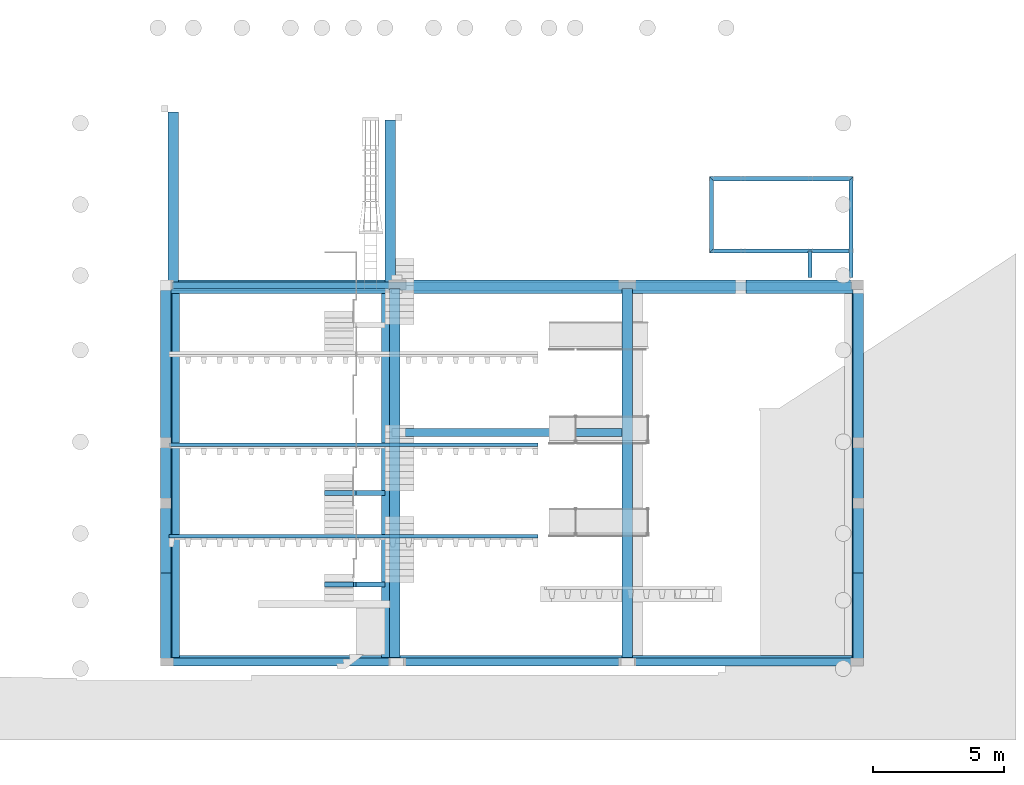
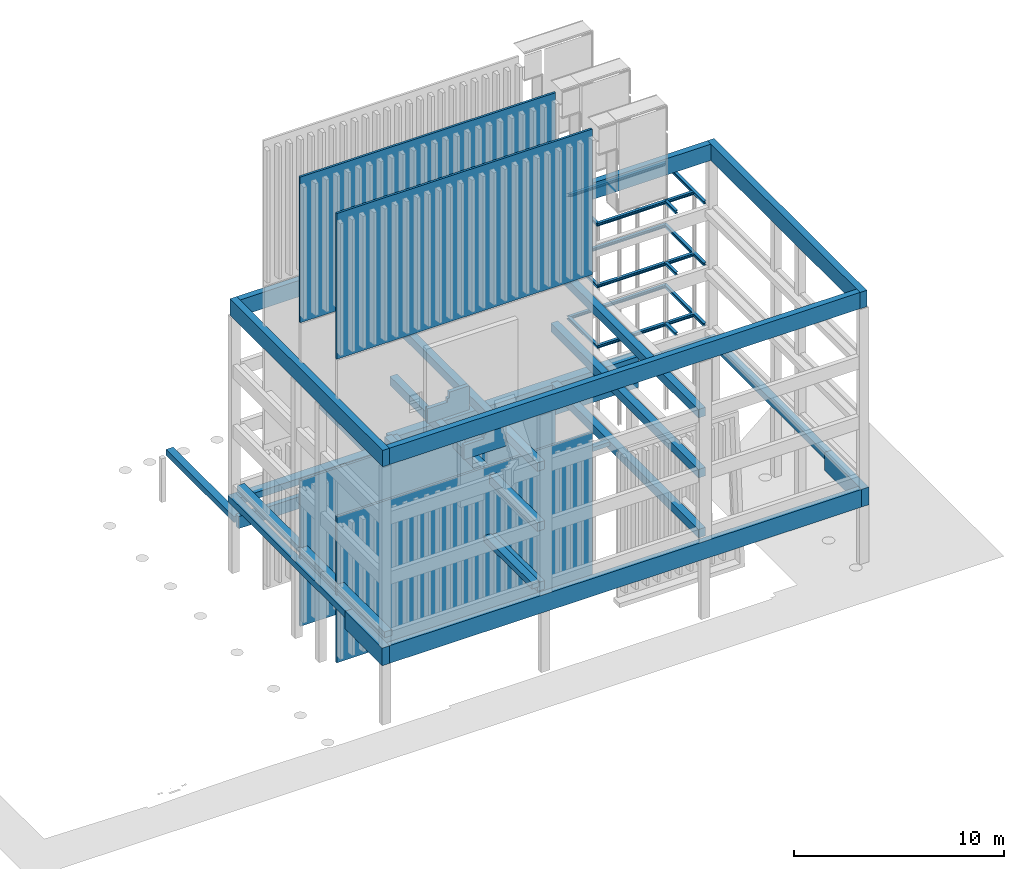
# One storey, part 3 of 15: 39 beams, 6 slabs.
"""IFC2X3 building model written with IfcOpenShell, lengths in metres."""

from ifc_helpers import new_model, entity, si_unit, converted_unit, derived_unit, money_unit, direction, frame, frame_2d, origin_with_axes, place, context, subcontext, project, spatial, polyline, rectangle, outline, extrude, clip, halfspace, faceted_brep, material, type_object, element, save


model = new_model("IFC2X3")

# Units and contexts
model_context = context("Model", 3, precision=1e-05, world=origin_with_axes(), true_north=direction((0.0, 1.0)))
body_context = subcontext(model_context, "Body", "Model", "MODEL_VIEW", scale=1.0)
ifc_project = project(units=[si_unit("LENGTHUNIT", "METRE"), si_unit("AREAUNIT", "SQUARE_METRE"), si_unit("VOLUMEUNIT", "CUBIC_METRE"), si_unit("ABSORBEDDOSEUNIT", "GRAY"), si_unit("AMOUNTOFSUBSTANCEUNIT", "MOLE"), si_unit("DOSEEQUIVALENTUNIT", "SIEVERT"), si_unit("ELECTRICCAPACITANCEUNIT", "FARAD"), si_unit("ELECTRICCHARGEUNIT", "COULOMB"), si_unit("ELECTRICCONDUCTANCEUNIT", "SIEMENS"), si_unit("ELECTRICCURRENTUNIT", "AMPERE"), si_unit("ELECTRICRESISTANCEUNIT", "OHM"), si_unit("ELECTRICVOLTAGEUNIT", "VOLT"), si_unit("ENERGYUNIT", "JOULE"), si_unit("FORCEUNIT", "NEWTON"), si_unit("FREQUENCYUNIT", "HERTZ"), si_unit("ILLUMINANCEUNIT", "LUX"), si_unit("INDUCTANCEUNIT", "HENRY"), si_unit("LUMINOUSFLUXUNIT", "LUMEN"), si_unit("LUMINOUSINTENSITYUNIT", "CANDELA"), si_unit("MAGNETICFLUXDENSITYUNIT", "TESLA"), si_unit("MAGNETICFLUXUNIT", "WEBER"), si_unit("MASSUNIT", "GRAM"), converted_unit("PLANEANGLEUNIT", "degree", entity("IfcReal", 0.0174532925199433), si_unit("PLANEANGLEUNIT", "RADIAN"), dimensions=[0, 0, 0, 0, 0, 0, 0]), si_unit("POWERUNIT", "WATT"), si_unit("PRESSUREUNIT", "PASCAL"), si_unit("RADIOACTIVITYUNIT", "BECQUEREL"), si_unit("SOLIDANGLEUNIT", "STERADIAN"), si_unit("THERMODYNAMICTEMPERATUREUNIT", "KELVIN"), si_unit("TIMEUNIT", "SECOND"), derived_unit("ACCELERATIONUNIT", [(si_unit("LENGTHUNIT", "METRE"), 1), (si_unit("TIMEUNIT", "SECOND"), -2)]), derived_unit("ANGULARVELOCITYUNIT", [(converted_unit("PLANEANGLEUNIT", "degree", entity("IfcReal", 0.0174532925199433), si_unit("PLANEANGLEUNIT", "RADIAN"), dimensions=[0, 0, 0, 0, 0, 0, 0]), 1), (si_unit("TIMEUNIT", "SECOND"), -1)]), derived_unit("CURVATUREUNIT", [(converted_unit("PLANEANGLEUNIT", "degree", entity("IfcReal", 0.0174532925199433), si_unit("PLANEANGLEUNIT", "RADIAN"), dimensions=[0, 0, 0, 0, 0, 0, 0]), 1), (si_unit("LENGTHUNIT", "METRE"), -1)]), derived_unit("DYNAMICVISCOSITYUNIT", [(si_unit("PRESSUREUNIT", "PASCAL"), 1), (si_unit("TIMEUNIT", "SECOND"), 1)]), derived_unit("HEATFLUXDENSITYUNIT", [(si_unit("POWERUNIT", "WATT"), 1), (si_unit("LENGTHUNIT", "METRE"), -2)]), derived_unit("HEATINGVALUEUNIT", [(si_unit("ENERGYUNIT", "JOULE"), 1), (si_unit("MASSUNIT", "GRAM"), -1)]), derived_unit("INTEGERCOUNTRATEUNIT", [(si_unit("TIMEUNIT", "SECOND"), -1)]), derived_unit("IONCONCENTRATIONUNIT", [(si_unit("MASSUNIT", "GRAM"), 1), (si_unit("VOLUMEUNIT", "CUBIC_METRE"), -1)]), derived_unit("ISOTHERMALMOISTURECAPACITYUNIT", [(si_unit("VOLUMEUNIT", "CUBIC_METRE"), 1), (si_unit("MASSUNIT", "GRAM"), -1)]), derived_unit("KINEMATICVISCOSITYUNIT", [(si_unit("AREAUNIT", "SQUARE_METRE"), 1), (si_unit("TIMEUNIT", "SECOND"), -1)]), derived_unit("LINEARFORCEUNIT", [(si_unit("FORCEUNIT", "NEWTON"), 1), (si_unit("LENGTHUNIT", "METRE"), -1)]), derived_unit("LINEARMOMENTUNIT", [(si_unit("FORCEUNIT", "NEWTON"), 1), (si_unit("LENGTHUNIT", "METRE"), -1)]), derived_unit("LINEARSTIFFNESSUNIT", [(si_unit("FORCEUNIT", "NEWTON"), 1), (si_unit("LENGTHUNIT", "METRE"), -1)]), derived_unit("LINEARVELOCITYUNIT", [(si_unit("LENGTHUNIT", "METRE"), 1), (si_unit("TIMEUNIT", "SECOND"), -1)]), derived_unit("LUMINOUSINTENSITYDISTRIBUTIONUNIT", [(si_unit("LUMINOUSINTENSITYUNIT", "CANDELA"), 1), (si_unit("LUMINOUSFLUXUNIT", "LUMEN"), -1)]), derived_unit("MASSDENSITYUNIT", [(si_unit("MASSUNIT", "GRAM"), 1), (si_unit("VOLUMEUNIT", "CUBIC_METRE"), -1)]), derived_unit("MASSFLOWRATEUNIT", [(si_unit("MASSUNIT", "GRAM"), 1), (si_unit("TIMEUNIT", "SECOND"), -1)]), derived_unit("MASSPERLENGTHUNIT", [(si_unit("MASSUNIT", "GRAM"), 1), (si_unit("LENGTHUNIT", "METRE"), -1)]), derived_unit("MODULUSOFELASTICITYUNIT", [(si_unit("FORCEUNIT", "NEWTON"), 1), (si_unit("AREAUNIT", "SQUARE_METRE"), -1)]), derived_unit("MODULUSOFLINEARSUBGRADEREACTIONUNIT", [(si_unit("FORCEUNIT", "NEWTON"), 1), (si_unit("LENGTHUNIT", "METRE"), -2)]), derived_unit("MODULUSOFROTATIONALSUBGRADEREACTIONUNIT", [(si_unit("FORCEUNIT", "NEWTON"), 1), (si_unit("LENGTHUNIT", "METRE"), 1)]), derived_unit("MODULUSOFSUBGRADEREACTIONUNIT", [(si_unit("FORCEUNIT", "NEWTON"), 1), (si_unit("VOLUMEUNIT", "CUBIC_METRE"), -1)]), derived_unit("MOISTUREDIFFUSIVITYUNIT", [(si_unit("VOLUMEUNIT", "CUBIC_METRE"), 1), (si_unit("TIMEUNIT", "SECOND"), -1)]), derived_unit("MOLECULARWEIGHTUNIT", [(si_unit("MASSUNIT", "GRAM"), 1), (si_unit("AMOUNTOFSUBSTANCEUNIT", "MOLE"), -1)]), derived_unit("PLANARFORCEUNIT", [(si_unit("FORCEUNIT", "NEWTON"), 1), (si_unit("LENGTHUNIT", "METRE"), -2)]), derived_unit("ROTATIONALFREQUENCYUNIT", [(si_unit("TIMEUNIT", "SECOND"), -1)]), derived_unit("ROTATIONALMASSUNIT", [(si_unit("MASSUNIT", "GRAM"), 1), (si_unit("LENGTHUNIT", "METRE"), 2)]), derived_unit("ROTATIONALSTIFFNESSUNIT", [(si_unit("FORCEUNIT", "NEWTON"), 1), (si_unit("LENGTHUNIT", "METRE"), 1), (converted_unit("PLANEANGLEUNIT", "degree", entity("IfcReal", 0.0174532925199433), si_unit("PLANEANGLEUNIT", "RADIAN"), dimensions=[0, 0, 0, 0, 0, 0, 0]), -1)]), derived_unit("SECTIONAREAINTEGRALUNIT", [(si_unit("LENGTHUNIT", "METRE"), 5)]), derived_unit("SECTIONMODULUSUNIT", [(si_unit("LENGTHUNIT", "METRE"), 3)]), derived_unit("SHEARMODULUSUNIT", [(si_unit("FORCEUNIT", "NEWTON"), 1), (si_unit("AREAUNIT", "SQUARE_METRE"), -1)]), derived_unit("SOUNDPOWERUNIT", [(si_unit("ENERGYUNIT", "JOULE"), 1), (si_unit("TIMEUNIT", "SECOND"), -1)]), derived_unit("SPECIFICHEATCAPACITYUNIT", [(si_unit("FORCEUNIT", "NEWTON"), 1), (si_unit("MASSUNIT", "GRAM"), -1), (si_unit("THERMODYNAMICTEMPERATUREUNIT", "KELVIN"), -1)]), derived_unit("TEMPERATUREGRADIENTUNIT", [(si_unit("THERMODYNAMICTEMPERATUREUNIT", "KELVIN"), 1), (si_unit("LENGTHUNIT", "METRE"), -1)]), derived_unit("THERMALADMITTANCEUNIT", [(si_unit("POWERUNIT", "WATT"), 1), (si_unit("AREAUNIT", "SQUARE_METRE"), -1), (si_unit("THERMODYNAMICTEMPERATUREUNIT", "KELVIN"), -1)]), derived_unit("THERMALCONDUCTANCEUNIT", [(si_unit("POWERUNIT", "WATT"), 1), (si_unit("LENGTHUNIT", "METRE"), -1), (si_unit("THERMODYNAMICTEMPERATUREUNIT", "KELVIN"), -1)]), derived_unit("THERMALEXPANSIONCOEFFICIENTUNIT", [(si_unit("THERMODYNAMICTEMPERATUREUNIT", "KELVIN"), -1)]), derived_unit("THERMALRESISTANCEUNIT", [(si_unit("AREAUNIT", "SQUARE_METRE"), 1), (si_unit("POWERUNIT", "WATT"), -1)]), derived_unit("THERMALTRANSMITTANCEUNIT", [(si_unit("POWERUNIT", "WATT"), 1), (si_unit("AREAUNIT", "SQUARE_METRE"), -1), (si_unit("THERMODYNAMICTEMPERATUREUNIT", "KELVIN"), -1)]), derived_unit("TORQUEUNIT", [(si_unit("FORCEUNIT", "NEWTON"), 1), (si_unit("LENGTHUNIT", "METRE"), 1)]), derived_unit("VAPORPERMEABILITYUNIT", [(si_unit("MASSUNIT", "GRAM"), 1), (si_unit("TIMEUNIT", "SECOND"), -1)]), derived_unit("VOLUMETRICFLOWRATEUNIT", [(si_unit("VOLUMEUNIT", "CUBIC_METRE"), 1), (si_unit("TIMEUNIT", "SECOND"), -1)]), derived_unit("WARPINGCONSTANTUNIT", [(si_unit("LENGTHUNIT", "METRE"), 6)]), derived_unit("WARPINGMOMENTUNIT", [(si_unit("FORCEUNIT", "NEWTON"), 1), (si_unit("LENGTHUNIT", "METRE"), 2)]), money_unit("GBP")], contexts=[model_context])

# Site, building, storey
site_placement = place(None, origin_with_axes())
site = spatial("IfcSite", under=ifc_project, at=site_placement, Name="Site", CompositionType="ELEMENT")
building_placement = place(site_placement, origin_with_axes())
building = spatial("IfcBuilding", under=site, at=building_placement, Name="Building01", CompositionType="ELEMENT")
storey_placement = place(building_placement, origin_with_axes())
storey = spatial("IfcBuildingStorey", under=building, at=storey_placement, Name="GF", CompositionType="ELEMENT", Elevation=0.0)

# Beams
ifc_material_1 = material(Name="A_BSUK_Beams_Steel")
beam_type_1 = type_object("IfcBeamType", Name="A-Beams-Steel", PredefinedType="BEAM")
beam_1_placement = place(storey_placement, frame((26.405835, 15.994581, 4.894267), z_axis=(-1.0, 0.0, 0.0), x_axis=(0.0, -1.0, 0.0)))
element("IfcBeam", 1, at=beam_1_placement, inside=storey, type_object=beam_type_1, material=ifc_material_1, Name="A-Beams-Steel", ObjectType="A-Beams-Steel", context=body_context, shape_type="Clipping", body=[
    clip(extrude(outline(polyline([(0.1574, 0.0), (0.1574, 0.0157), (0.0842, 0.0157), (0.0842, 0.1545), (0.1574, 0.1545), (0.1574, 0.1702), (0.0, 0.1702), (0.0, 0.1545), (0.0732, 0.1545), (0.0732, 0.0157), (0.0, 0.0157), (0.0, 0.0), (0.1574, 0.0)])), origin_with_axes(), (0.0, 0.0, 1.0), 5.394401), halfspace(frame((-2.618501, 0.0, 2.618501), z_axis=(0.70710678, 0.0, -0.70710678), x_axis=(0.0, 1.0, 0.0)), True)),
])
for number, where, z_axis, x_axis, name in (
    (2, (26.490035, 18.742181, 4.894267), (-1.0, 0.0, 0.0), (0.0, -1.0, 0.0), "A-Beams-Steel"),
    (3, (26.490035, 18.742181, 12.000813), (-1.0, 0.0, 0.0), (0.0, -1.0, 0.0), "A-Beams-Steel"),
):
    element("IfcBeam", number, at=place(storey_placement, frame(where, z_axis=z_axis, x_axis=x_axis)), inside=storey, type_object=beam_type_1, material=ifc_material_1, Name=name, ObjectType="A-Beams-Steel", context=body_context, shape_type="Clipping", body=[
        clip(clip(extrude(outline(polyline([(0.1574, 0.0), (0.1574, 0.0157), (0.0842, 0.0157), (0.0842, 0.1545), (0.1574, 0.1545), (0.1574, 0.1702), (0.0, 0.1702), (0.0, 0.1545), (0.0732, 0.1545), (0.0732, 0.0157), (0.0, 0.0157), (0.0, 0.0), (0.1574, 0.0)])), origin_with_axes(), (0.0, 0.0, 1.0), 5.478601), halfspace(frame((0.0, 0.0, 0.0), z_axis=(-0.70710678, 0.0, 0.70710678), x_axis=(0.0, -1.0, 0.0)), True)), halfspace(frame((2.739301, 0.0, 2.739301), z_axis=(-0.70710678, 0.0, -0.70710678), x_axis=(0.0, -1.0, 0.0)), True)),
    ])
beam_2_placement = place(storey_placement, frame((21.011434, 18.742181, 4.894267), z_axis=(0.0, -1.0, 0.0), x_axis=(1.0, 0.0, 0.0)))
element("IfcBeam", 4, at=beam_2_placement, inside=storey, type_object=beam_type_1, material=ifc_material_1, Name="A-Beams-Steel", ObjectType="A-Beams-Steel", context=body_context, shape_type="Clipping", body=[
    clip(clip(extrude(outline(polyline([(0.1574, 0.0), (0.1574, 0.0157), (0.0842, 0.0157), (0.0842, 0.1545), (0.1574, 0.1545), (0.1574, 0.1702), (0.0, 0.1702), (0.0, 0.1545), (0.0732, 0.1545), (0.0732, 0.0157), (0.0, 0.0157), (0.0, 0.0), (0.1574, 0.0)])), origin_with_axes(), (0.0, 0.0, 1.0), 2.905), halfspace(frame((0.0, 0.0, 0.0), z_axis=(-0.70710678, 0.0, 0.70710678), x_axis=(0.0, -1.0, 0.0)), True)), halfspace(frame((1.4525, 0.0, 1.4525), z_axis=(-0.70710678, 0.0, -0.70710678), x_axis=(-0.70710678, 0.0, 0.70710678)), True)),
])
beam_3_placement = place(storey_placement, frame((26.332635, 18.742181, 12.000813), z_axis=(0.0, -1.0, 0.0), x_axis=(1.0, 0.0, 0.0)))
element("IfcBeam", 5, at=beam_3_placement, inside=storey, type_object=beam_type_1, material=ifc_material_1, Name="A-Beams-Steel", ObjectType="A-Beams-Steel", context=body_context, shape_type="Clipping", body=[
    clip(extrude(outline(polyline([(0.1574, 0.0), (0.1574, 0.0157), (0.0842, 0.0157), (0.0842, 0.1545), (0.1574, 0.1545), (0.1574, 0.1702), (0.0, 0.1702), (0.0, 0.1545), (0.0732, 0.1545), (0.0732, 0.0157), (0.0, 0.0157), (0.0, 0.0), (0.1574, 0.0)])), origin_with_axes(), (0.0, 0.0, 1.0), 3.842181), halfspace(frame((0.0787, 0.0, 0.0787), z_axis=(0.70710678, 0.0, 0.70710678), x_axis=(0.0, 1.0, 0.0)), True)),
])
for number, where, z_axis, x_axis, name in (
    (6, (24.769835, 15.910381, 8.417242), (0.0, -1.0, 0.0), (1.0, 0.0, 0.0), "A-Beams-Steel"),
    (7, (24.769835, 15.910381, 12.000813), (0.0, -1.0, 0.0), (1.0, 0.0, 0.0), "A-Beams-Steel"),
    (8, (24.769835, 15.910381, 4.894267), (0.0, -1.0, 0.0), (1.0, 0.0, 0.0), "A-Beams-Steel"),
):
    element("IfcBeam", number, at=place(storey_placement, frame(where, z_axis=z_axis, x_axis=x_axis)), inside=storey, type_object=beam_type_1, material=ifc_material_1, Name=name, ObjectType="A-Beams-Steel", context=body_context, shape_type="SweptSolid", body=[
        extrude(outline(polyline([(0.1574, 0.0), (0.1574, 0.0157), (0.0842, 0.0157), (0.0842, 0.1545), (0.1574, 0.1545), (0.1574, 0.1702), (0.0, 0.1702), (0.0, 0.1545), (0.0732, 0.1545), (0.0732, 0.0157), (0.0, 0.0157), (0.0, 0.0), (0.1574, 0.0)])), origin_with_axes(), (0.0, 0.0, 1.0), 1.010381),
    ])
beam_4_placement = place(storey_placement, frame((21.011434, 18.742181, 8.417242), z_axis=(0.0, -1.0, 0.0), x_axis=(1.0, 0.0, 0.0)))
element("IfcBeam", 9, at=beam_4_placement, inside=storey, type_object=beam_type_1, material=ifc_material_1, Name="A-Beams-Steel", ObjectType="A-Beams-Steel", context=body_context, shape_type="Clipping", body=[
    clip(clip(extrude(outline(polyline([(0.1574, 0.0), (0.1574, 0.0157), (0.0842, 0.0157), (0.0842, 0.1545), (0.1574, 0.1545), (0.1574, 0.1702), (0.0, 0.1702), (0.0, 0.1545), (0.0732, 0.1545), (0.0732, 0.0157), (0.0, 0.0157), (0.0, 0.0), (0.1574, 0.0)])), origin_with_axes(), (0.0, 0.0, 1.0), 2.905), halfspace(frame((1.4525, 0.0, 1.4525), z_axis=(-0.70710678, 0.0, -0.70710678), x_axis=(0.0, -1.0, 0.0)), True)), halfspace(frame((0.0, 0.0, 0.0), z_axis=(-0.70710678, 0.0, 0.70710678), x_axis=(0.0, -1.0, 0.0)), True)),
])
beam_5_placement = place(storey_placement, frame((21.011434, 18.742181, 12.000813), z_axis=(0.0, -1.0, 0.0), x_axis=(1.0, 0.0, 0.0)))
element("IfcBeam", 10, at=beam_5_placement, inside=storey, type_object=beam_type_1, material=ifc_material_1, Name="A-Beams-Steel", ObjectType="A-Beams-Steel", context=body_context, shape_type="Clipping", body=[
    clip(clip(extrude(outline(polyline([(0.1574, 0.0), (0.1574, 0.0157), (0.0842, 0.0157), (0.0842, 0.1545), (0.1574, 0.1545), (0.1574, 0.1702), (0.0, 0.1702), (0.0, 0.1545), (0.0732, 0.1545), (0.0732, 0.0157), (0.0, 0.0157), (0.0, 0.0), (0.1574, 0.0)])), origin_with_axes(), (0.0, 0.0, 1.0), 2.905), halfspace(frame((0.0, 0.0, 0.0), z_axis=(-0.70710678, 0.0, 0.70710678), x_axis=(0.0, -1.0, 0.0)), True)), halfspace(frame((1.4525, 0.0, 1.4525), z_axis=(-0.70710678, 0.0, -0.70710678), x_axis=(-0.70710678, 0.0, 0.70710678)), True)),
])
beam_6_placement = place(storey_placement, frame((26.332635, 18.742181, 8.417242), z_axis=(0.0, -1.0, 0.0), x_axis=(1.0, 0.0, 0.0)))
element("IfcBeam", 11, at=beam_6_placement, inside=storey, type_object=beam_type_1, material=ifc_material_1, Name="A-Beams-Steel", ObjectType="A-Beams-Steel", context=body_context, shape_type="Clipping", body=[
    clip(extrude(outline(polyline([(0.1574, 0.0), (0.1574, 0.0157), (0.0842, 0.0157), (0.0842, 0.1545), (0.1574, 0.1545), (0.1574, 0.1702), (0.0, 0.1702), (0.0, 0.1545), (0.0732, 0.1545), (0.0732, 0.0157), (0.0, 0.0157), (0.0, 0.0), (0.1574, 0.0)])), origin_with_axes(), (0.0, 0.0, 1.0), 3.842181), halfspace(frame((0.0787, 0.0, 0.0787), z_axis=(0.70710678, 0.0, 0.70710678), x_axis=(0.70710678, 0.0, -0.70710678)), True)),
])
beam_7_placement = place(storey_placement, frame((26.332635, 18.742181, 4.894267), z_axis=(0.0, -1.0, 0.0), x_axis=(1.0, 0.0, 0.0)))
element("IfcBeam", 12, at=beam_7_placement, inside=storey, type_object=beam_type_1, material=ifc_material_1, Name="A-Beams-Steel", ObjectType="A-Beams-Steel", context=body_context, shape_type="Clipping", body=[
    clip(extrude(outline(polyline([(0.1574, 0.0), (0.1574, 0.0157), (0.0842, 0.0157), (0.0842, 0.1545), (0.1574, 0.1545), (0.1574, 0.1702), (0.0, 0.1702), (0.0, 0.1545), (0.0732, 0.1545), (0.0732, 0.0157), (0.0, 0.0157), (0.0, 0.0), (0.1574, 0.0)])), origin_with_axes(), (0.0, 0.0, 1.0), 3.842181), halfspace(frame((0.0787, 0.0, 0.0787), z_axis=(0.70710678, 0.0, 0.70710678), x_axis=(0.0, 1.0, 0.0)), True)),
])
beam_8_placement = place(storey_placement, frame((26.490035, 18.742181, 8.417242), z_axis=(-1.0, 0.0, 0.0), x_axis=(0.0, -1.0, 0.0)))
element("IfcBeam", 13, at=beam_8_placement, inside=storey, type_object=beam_type_1, material=ifc_material_1, Name="A-Beams-Steel", ObjectType="A-Beams-Steel", context=body_context, shape_type="Clipping", body=[
    clip(clip(extrude(outline(polyline([(0.1574, 0.0), (0.1574, 0.0157), (0.0842, 0.0157), (0.0842, 0.1545), (0.1574, 0.1545), (0.1574, 0.1702), (0.0, 0.1702), (0.0, 0.1545), (0.0732, 0.1545), (0.0732, 0.0157), (0.0, 0.0157), (0.0, 0.0), (0.1574, 0.0)])), origin_with_axes(), (0.0, 0.0, 1.0), 5.478601), halfspace(frame((2.739301, 0.0, 2.739301), z_axis=(-0.70710678, 0.0, -0.70710678), x_axis=(0.0, -1.0, 0.0)), True)), halfspace(frame((0.0, 0.0, 0.0), z_axis=(-0.70710678, 0.0, 0.70710678), x_axis=(0.0, -1.0, 0.0)), True)),
])
for number, where, z_axis, x_axis, name in (
    (14, (26.405835, 15.994581, 8.417242), (-1.0, 0.0, 0.0), (0.0, -1.0, 0.0), "A-Beams-Steel"),
    (15, (26.405835, 15.994581, 12.000813), (-1.0, 0.0, 0.0), (0.0, -1.0, 0.0), "A-Beams-Steel"),
):
    element("IfcBeam", number, at=place(storey_placement, frame(where, z_axis=z_axis, x_axis=x_axis)), inside=storey, type_object=beam_type_1, material=ifc_material_1, Name=name, ObjectType="A-Beams-Steel", context=body_context, shape_type="Clipping", body=[
        clip(extrude(outline(polyline([(0.1574, 0.0), (0.1574, 0.0157), (0.0842, 0.0157), (0.0842, 0.1545), (0.1574, 0.1545), (0.1574, 0.1702), (0.0, 0.1702), (0.0, 0.1545), (0.0732, 0.1545), (0.0732, 0.0157), (0.0, 0.0157), (0.0, 0.0), (0.1574, 0.0)])), origin_with_axes(), (0.0, 0.0, 1.0), 5.394401), halfspace(frame((-2.618501, 0.0, 2.618501), z_axis=(0.70710678, 0.0, -0.70710678), x_axis=(0.0, 1.0, 0.0)), True)),
    ])
ifc_material_2 = material(Name="S_BSUK_Beams_PrecastConcrete")
beam_type_2 = type_object("IfcBeamType", Name="S-Beams-PrecastConcrete", PredefinedType="BEAM")
for number, where, z_axis, x_axis, name in (
    (16, (17.685, 14.48, 4.4), (0.0, -1.0, 0.0), (1.0, 0.0, 0.0), "S-Beams-PrecastConcrete"),
    (17, (8.825, 14.48, 4.4), (0.0, -1.0, 0.0), (1.0, 0.0, 0.0), "S-Beams-PrecastConcrete"),
    (18, (17.685, 14.48, 7.89), (0.0, -1.0, 0.0), (1.0, 0.0, 0.0), "S-Beams-PrecastConcrete"),
    (19, (8.825, 14.48, 7.89), (0.0, -1.0, 0.0), (1.0, 0.0, 0.0), "S-Beams-PrecastConcrete"),
    (20, (17.685, 14.48, 11.38), (0.0, -1.0, 0.0), (1.0, 0.0, 0.0), "S-Beams-PrecastConcrete"),
    (21, (8.825, 14.48, 11.38), (0.0, -1.0, 0.0), (1.0, 0.0, 0.0), "S-Beams-PrecastConcrete"),
):
    element("IfcBeam", number, at=place(storey_placement, frame(where, z_axis=z_axis, x_axis=x_axis)), inside=storey, type_object=beam_type_2, material=ifc_material_2, Name=name, ObjectType="S-Beams-PrecastConcrete", context=body_context, shape_type="SweptSolid", body=[
        extrude(rectangle(XDim=0.5, YDim=0.4, at=frame_2d((0.2, 0.25), x_axis=(0.0, 1.0))), origin_with_axes(), (0.0, 0.0, 1.0), 14.06),
    ])
beam_9_placement = place(storey_placement, frame((0.1, 14.8, 3.97), z_axis=(0.0, -1.0, 0.0), x_axis=(1.0, 0.0, 0.0)))
element("IfcBeam", 22, at=beam_9_placement, inside=storey, type_object=beam_type_2, material=ifc_material_2, Name="S-Beams-PrecastConcrete", ObjectType="S-Beams-PrecastConcrete", context=body_context, shape_type="SweptSolid", body=[
    extrude(rectangle(XDim=0.38, YDim=0.4, at=frame_2d((0.2, 0.19), x_axis=(0.0, 1.0))), origin_with_axes(), (0.0, 0.0, 1.0), 11.153538),
])
beam_10_placement = place(storey_placement, frame((22.41, 14.799999, 3.1), z_axis=(-1.0, 0.0, 0.0), x_axis=(0.0, -1.0, 0.0)))
element("IfcBeam", 23, at=beam_10_placement, inside=storey, type_object=beam_type_2, material=ifc_material_2, Name="S-Beams-PrecastConcrete", ObjectType="S-Beams-PrecastConcrete", context=body_context, shape_type="SweptSolid", body=[
    extrude(rectangle(XDim=1.8, YDim=0.5, at=frame_2d((0.25, 0.9), x_axis=(0.0, 1.0))), origin_with_axes(), (0.0, 0.0, 1.0), 13.62),
])
beam_11_placement = place(storey_placement, frame((0.1, 3.646462, 3.32), z_axis=(0.0, -1.0, 0.0), x_axis=(1.0, 0.0, 0.0)))
element("IfcBeam", 24, at=beam_11_placement, inside=storey, type_object=beam_type_2, material=ifc_material_2, Name="S-Beams-PrecastConcrete", ObjectType="S-Beams-PrecastConcrete", context=body_context, shape_type="SweptSolid", body=[
    extrude(rectangle(XDim=1.03, YDim=0.4, at=frame_2d((0.2, 0.515), x_axis=(0.0, 1.0))), origin_with_axes(), (0.0, 0.0, 1.0), 3.546462),
])
beam_12_placement = place(storey_placement, frame((0.5, 0.1, 3.32), z_axis=(1.0, 0.0, 0.0), x_axis=(0.0, 1.0, 0.0)))
element("IfcBeam", 25, at=beam_12_placement, inside=storey, type_object=beam_type_2, material=ifc_material_2, Name="S-Beams-PrecastConcrete", ObjectType="S-Beams-PrecastConcrete", context=body_context, shape_type="SweptSolid", body=[
    extrude(rectangle(XDim=1.03, YDim=0.3, at=frame_2d((0.15, 0.515), x_axis=(0.0, 1.0))), origin_with_axes(), (0.0, 0.0, 1.0), 25.98),
])
beam_13_placement = place(storey_placement, frame((26.48, 3.646462, 3.32), z_axis=(0.0, -1.0, 0.0), x_axis=(1.0, 0.0, 0.0)))
element("IfcBeam", 26, at=beam_13_placement, inside=storey, type_object=beam_type_2, material=ifc_material_2, Name="S-Beams-PrecastConcrete", ObjectType="S-Beams-PrecastConcrete", context=body_context, shape_type="SweptSolid", body=[
    extrude(rectangle(XDim=1.03, YDim=0.4, at=frame_2d((0.2, 0.515), x_axis=(0.0, 1.0))), origin_with_axes(), (0.0, 0.0, 1.0), 3.546462),
])
beam_14_placement = place(storey_placement, frame((26.48, 14.8, 3.97), z_axis=(0.0, -1.0, 0.0), x_axis=(1.0, 0.0, 0.0)))
element("IfcBeam", 27, at=beam_14_placement, inside=storey, type_object=beam_type_2, material=ifc_material_2, Name="S-Beams-PrecastConcrete", ObjectType="S-Beams-PrecastConcrete", context=body_context, shape_type="SweptSolid", body=[
    extrude(rectangle(XDim=0.38, YDim=0.4, at=frame_2d((0.2, 0.19), x_axis=(0.0, 1.0))), origin_with_axes(), (0.0, 0.0, 1.0), 11.153538),
])
beam_15_placement = place(storey_placement, frame((26.48, 14.799999, 3.97), z_axis=(-1.0, 0.0, 0.0), x_axis=(0.0, -1.0, 0.0)))
element("IfcBeam", 28, at=beam_15_placement, inside=storey, type_object=beam_type_2, material=ifc_material_2, Name="S-Beams-PrecastConcrete", ObjectType="S-Beams-PrecastConcrete", context=body_context, shape_type="SweptSolid", body=[
    extrude(rectangle(XDim=0.38, YDim=0.5, at=frame_2d((0.25, 0.19), x_axis=(0.0, 1.0))), origin_with_axes(), (0.0, 0.0, 1.0), 4.07),
])
beam_16_placement = place(storey_placement, frame((8.79, 14.799999, 3.97), z_axis=(-1.0, 0.0, 0.0), x_axis=(0.0, -1.0, 0.0)))
element("IfcBeam", 29, at=beam_16_placement, inside=storey, type_object=beam_type_2, material=ifc_material_2, Name="S-Beams-PrecastConcrete", ObjectType="S-Beams-PrecastConcrete", context=body_context, shape_type="SweptSolid", body=[
    extrude(rectangle(XDim=0.38, YDim=0.5, at=frame_2d((0.25, 0.19), x_axis=(0.0, 1.0))), origin_with_axes(), (0.0, 0.0, 1.0), 8.29),
])
beam_17_placement = place(storey_placement, frame((9.325, 8.847854, 4.65), z_axis=(1.0, 0.0, 0.0), x_axis=(0.0, 1.0, 0.0)))
element("IfcBeam", 30, at=beam_17_placement, inside=storey, type_object=beam_type_2, material=ifc_material_2, Name="S-Beams-PrecastConcrete", ObjectType="S-Beams-PrecastConcrete", context=body_context, shape_type="SweptSolid", body=[
    extrude(rectangle(XDim=0.25, YDim=0.3, at=frame_2d((0.15, 0.125), x_axis=(0.0, 1.0))), origin_with_axes(), (0.0, 0.0, 1.0), 8.36),
])
beam_18_placement = place(storey_placement, frame((8.903038, 14.73, 2.435), z_axis=(-1.0, 0.0, 0.0), x_axis=(0.0, -1.0, 0.0)))
element("IfcBeam", 31, at=beam_18_placement, inside=storey, type_object=beam_type_2, material=ifc_material_2, Name="S-Beams-PrecastConcrete", ObjectType="S-Beams-PrecastConcrete", context=body_context, shape_type="SweptSolid", body=[
    extrude(rectangle(XDim=0.7, YDim=0.25, at=frame_2d((0.125, 0.35), x_axis=(0.0, 1.0))), origin_with_axes(), (0.0, 0.0, 1.0), 8.403038),
])
for number, where, z_axis, x_axis, name in (
    (32, (0.42, 14.48, 4.64), (0.0, -1.0, 0.0), (1.0, 0.0, 0.0), "S-Beams-PrecastConcrete"),
    (33, (8.525, 14.48, 4.64), (0.0, -1.0, 0.0), (1.0, 0.0, 0.0), "S-Beams-PrecastConcrete"),
):
    element("IfcBeam", number, at=place(storey_placement, frame(where, z_axis=z_axis, x_axis=x_axis)), inside=storey, type_object=beam_type_2, material=ifc_material_2, Name=name, ObjectType="S-Beams-PrecastConcrete", context=body_context, shape_type="SweptSolid", body=[
        extrude(rectangle(XDim=0.34, YDim=0.4, at=frame_2d((0.2, 0.17), x_axis=(0.0, 1.0))), origin_with_axes(), (0.0, 0.0, 1.0), 14.06),
    ])
beam_19_placement = place(storey_placement, frame((0.390679, 21.207883, 2.675), z_axis=(0.0, -1.0, 0.0), x_axis=(1.0, 0.0, 0.0)))
element("IfcBeam", 34, at=beam_19_placement, inside=storey, type_object=beam_type_2, material=ifc_material_2, Name="S-Beams-PrecastConcrete", ObjectType="S-Beams-PrecastConcrete", context=body_context, shape_type="SweptSolid", body=[
    extrude(rectangle(XDim=0.34, YDim=0.4, at=frame_2d((0.2, 0.17), x_axis=(0.0, 1.0))), origin_with_axes(), (0.0, 0.0, 1.0), 6.477883),
])
beam_20_placement = place(storey_placement, frame((8.653038, 20.901785, 2.675), z_axis=(0.0, -1.0, 0.0), x_axis=(1.0, 0.0, 0.0)))
element("IfcBeam", 35, at=beam_20_placement, inside=storey, type_object=beam_type_2, material=ifc_material_2, Name="S-Beams-PrecastConcrete", ObjectType="S-Beams-PrecastConcrete", context=body_context, shape_type="SweptSolid", body=[
    extrude(rectangle(XDim=0.34, YDim=0.4, at=frame_2d((0.2, 0.17), x_axis=(0.0, 1.0))), origin_with_axes(), (0.0, 0.0, 1.0), 6.171785),
])
beam_21_placement = place(storey_placement, frame((26.44, 14.73, 14.83), z_axis=(-1.0, 0.0, 0.0), x_axis=(0.0, -1.0, 0.0)))
element("IfcBeam", 36, at=beam_21_placement, inside=storey, type_object=beam_type_2, material=ifc_material_2, Name="S-Beams-PrecastConcrete", ObjectType="S-Beams-PrecastConcrete", context=body_context, shape_type="SweptSolid", body=[
    extrude(rectangle(XDim=0.95, YDim=0.33, at=frame_2d((0.165, 0.475), x_axis=(0.0, 1.0))), origin_with_axes(), (0.0, 0.0, 1.0), 25.9),
])
beam_22_placement = place(storey_placement, frame((26.44, 14.73, 14.83), z_axis=(0.0, -1.0, 0.0), x_axis=(1.0, 0.0, 0.0)))
element("IfcBeam", 37, at=beam_22_placement, inside=storey, type_object=beam_type_2, material=ifc_material_2, Name="S-Beams-PrecastConcrete", ObjectType="S-Beams-PrecastConcrete", context=body_context, shape_type="SweptSolid", body=[
    extrude(rectangle(XDim=0.95, YDim=0.37, at=frame_2d((0.185, 0.475), x_axis=(0.0, 1.0))), origin_with_axes(), (0.0, 0.0, 1.0), 14.56),
])
beam_23_placement = place(storey_placement, frame((26.44, 0.5, 14.83), z_axis=(-1.0, 0.0, 0.0), x_axis=(0.0, -1.0, 0.0)))
element("IfcBeam", 38, at=beam_23_placement, inside=storey, type_object=beam_type_2, material=ifc_material_2, Name="S-Beams-PrecastConcrete", ObjectType="S-Beams-PrecastConcrete", context=body_context, shape_type="SweptSolid", body=[
    extrude(rectangle(XDim=0.95, YDim=0.33, at=frame_2d((0.165, 0.475), x_axis=(0.0, 1.0))), origin_with_axes(), (0.0, 0.0, 1.0), 25.9),
])
beam_24_placement = place(storey_placement, frame((0.17, 14.73, 14.83), z_axis=(0.0, -1.0, 0.0), x_axis=(1.0, 0.0, 0.0)))
element("IfcBeam", 39, at=beam_24_placement, inside=storey, type_object=beam_type_2, material=ifc_material_2, Name="S-Beams-PrecastConcrete", ObjectType="S-Beams-PrecastConcrete", context=body_context, shape_type="SweptSolid", body=[
    extrude(rectangle(XDim=0.95, YDim=0.37, at=frame_2d((0.185, 0.475), x_axis=(0.0, 1.0))), origin_with_axes(), (0.0, 0.0, 1.0), 14.56),
])

# Slabs
ifc_material_3 = material(Name="A_BSUK_Slabs")
slab_type = type_object("IfcSlabType", Name="A-FloorsSlabs A_BSUK_Slabs", PredefinedType="FLOOR")
placement = place(storey_placement, origin_with_axes())
element("IfcSlab", 40, at=placement, inside=storey, type_object=slab_type, material=ifc_material_3, Name="A-FloorsSlabs A_BSUK_Slabs", ObjectType="CompoundSlabLeaf", context=body_context, shape_type="Brep", body=[
    faceted_brep([(14.48, 8.47, 0.42), (14.48, 8.59, 0.42), (14.48, 8.59, 8.925), (14.48, 8.47, 8.925), (0.42, 8.47, 0.42), (0.42, 8.59, 0.42), (0.42, 8.47, 8.925), (0.42, 8.59, 8.925)], [[[0, 1, 2, 3]], [[4, 5, 1, 0]], [[6, 7, 5, 4]], [[3, 2, 7, 6]], [[1, 5, 7, 2]], [[3, 6, 4, 0]]]),
])
element("IfcSlab", 41, at=placement, inside=storey, type_object=slab_type, material=ifc_material_3, Name="A-FloorsSlabs A_BSUK_Slabs", ObjectType="CompoundSlabLeaf", context=body_context, shape_type="Brep", body=[
    faceted_brep([(14.48, 8.47, 18.085), (14.48, 8.59, 18.085), (14.48, 8.59, 26.56), (14.48, 8.47, 26.56), (0.42, 8.47, 18.085), (0.42, 8.59, 18.085), (0.42, 8.47, 26.56), (0.42, 8.59, 26.56)], [[[0, 1, 2, 3]], [[4, 5, 1, 0]], [[6, 7, 5, 4]], [[3, 2, 7, 6]], [[1, 5, 7, 2]], [[3, 6, 4, 0]]]),
])
element("IfcSlab", 42, at=placement, inside=storey, type_object=slab_type, material=ifc_material_3, Name="A-FloorsSlabs A_BSUK_Slabs", ObjectType="CompoundSlabLeaf", context=body_context, shape_type="Brep", body=[
    faceted_brep([(14.48, 4.98, 0.42), (14.48, 5.1, 0.42), (14.48, 5.1, 8.925), (14.48, 4.98, 8.925), (0.42, 4.98, 0.42), (0.42, 5.1, 0.42), (0.42, 4.98, 8.925), (0.42, 5.1, 8.925)], [[[0, 1, 2, 3]], [[4, 5, 1, 0]], [[6, 7, 5, 4]], [[3, 2, 7, 6]], [[1, 5, 7, 2]], [[3, 6, 4, 0]]]),
])
element("IfcSlab", 43, at=placement, inside=storey, type_object=slab_type, material=ifc_material_3, Name="A-FloorsSlabs A_BSUK_Slabs", ObjectType="CompoundSlabLeaf", context=body_context, shape_type="Brep", body=[
    faceted_brep([(14.48, 4.98, 18.085), (14.48, 5.1, 18.085), (14.48, 5.1, 26.56), (14.48, 4.98, 26.56), (0.42, 4.98, 18.085), (0.42, 5.1, 18.085), (0.42, 4.98, 26.56), (0.42, 5.1, 26.56)], [[[0, 1, 2, 3]], [[4, 5, 1, 0]], [[6, 7, 5, 4]], [[3, 2, 7, 6]], [[1, 5, 7, 2]], [[3, 6, 4, 0]]]),
])
slab_5_placement = place(storey_placement, frame((8.65, 3.1, 11.3), z_axis=(0.0, 1.0, 0.0), x_axis=(0.0, 0.0, 1.0)))
element("IfcSlab", 44, at=slab_5_placement, inside=storey, type_object=slab_type, material=ifc_material_3, Name="A-FloorsSlabs A_BSUK_Slabs", ObjectType="A-FloorsSlabs A_BSUK_Slabs", context=body_context, shape_type="Brep", body=[
    faceted_brep([(0.0, 0.0, 0.0), (0.0, 0.0, 0.2), (1.395807, 0.0, 0.2), (1.395807, 0.0, 0.0), (0.0, -2.3, 0.0), (0.0, -2.3, 0.2), (0.841481, -2.3, 0.0), (0.841481, -2.3, 0.2), (0.841481, -1.2, 0.0), (0.841481, -1.2, 0.2), (1.059584, -1.2, 0.0), (1.059584, -1.2, 0.2), (1.059584, -1.1, 0.0), (1.059584, -1.1, 0.2), (1.395807, -1.1, 0.0), (1.395807, -1.1, 0.2)], [[[0, 1, 2, 3]], [[4, 5, 1, 0]], [[6, 7, 5, 4]], [[8, 9, 7, 6]], [[10, 11, 9, 8]], [[12, 13, 11, 10]], [[14, 15, 13, 12]], [[3, 2, 15, 14]], [[1, 5, 7, 9, 11, 13, 15, 2]], [[3, 14, 12, 10, 8, 6, 4, 0]]]),
])
element("IfcSlab", 45, at=placement, inside=storey, type_object=slab_type, material=ifc_material_3, Name="A-FloorsSlabs A_BSUK_Slabs", ObjectType="CompoundSlabLeaf", context=body_context, shape_type="Brep", body=[
    faceted_brep([(8.65, 6.59, 11.3), (8.65, 6.79, 11.3), (8.65, 6.79, 12.695807), (8.65, 6.59, 12.695807), (6.35, 6.59, 11.3), (6.35, 6.79, 11.3), (6.35, 6.59, 12.147098), (6.35, 6.79, 12.147098), (7.45, 6.59, 12.147665), (7.45, 6.79, 12.147665), (7.45, 6.59, 12.359584), (7.45, 6.79, 12.359584), (7.55, 6.59, 12.359584), (7.55, 6.79, 12.359584), (7.55, 6.59, 12.695807), (7.55, 6.79, 12.695807)], [[[0, 1, 2, 3]], [[4, 5, 1, 0]], [[6, 7, 5, 4]], [[8, 9, 7, 6]], [[10, 11, 9, 8]], [[12, 13, 11, 10]], [[14, 15, 13, 12]], [[3, 2, 15, 14]], [[1, 5, 7, 9, 11, 13, 15, 2]], [[3, 14, 12, 10, 8, 6, 4, 0]]]),
])

save(model, "model.ifc")
